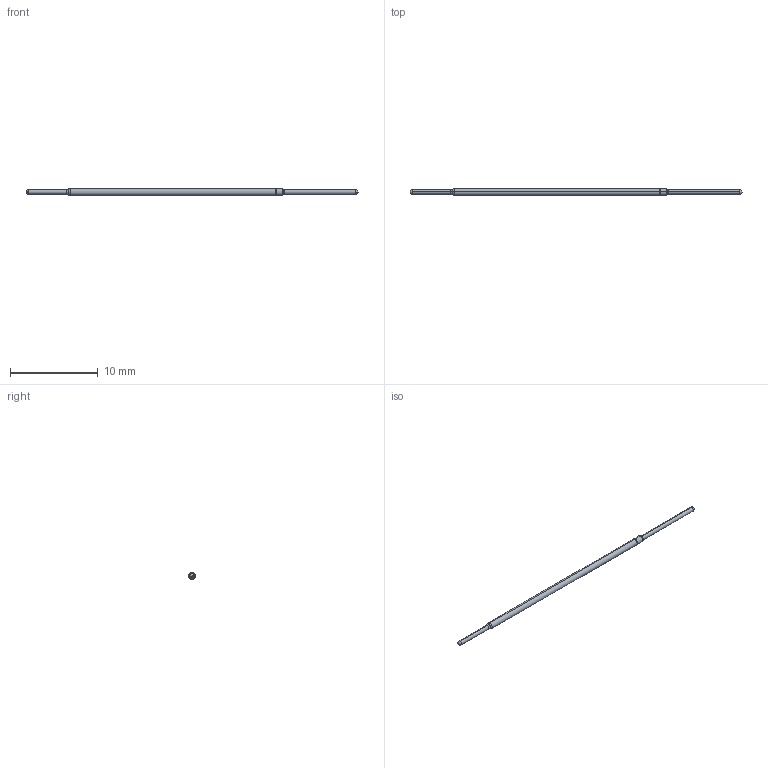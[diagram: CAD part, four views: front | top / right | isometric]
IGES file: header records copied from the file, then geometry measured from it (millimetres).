
Start section: SolidWorks IGES file using analytic representation for surfaces
Global section: file name: C:\Documents and Settings\mrumschlag\Desktop\changes\new\test\J.IGS; native system: SolidWorks 2011; preprocessor: SolidWorks 2011; author: mrumschlag; date: 110630.142725; units: inch
Bounding box: 37.93 x 0.76 x 0.76 mm (x, y, z)
Surface area: 81.1 mm2 (no closed solid volume)
Topology: 0 solids, 0 shells, 25 faces, 136 edges, 132 vertices
Faces by surface type: revolution 16, bspline 9
